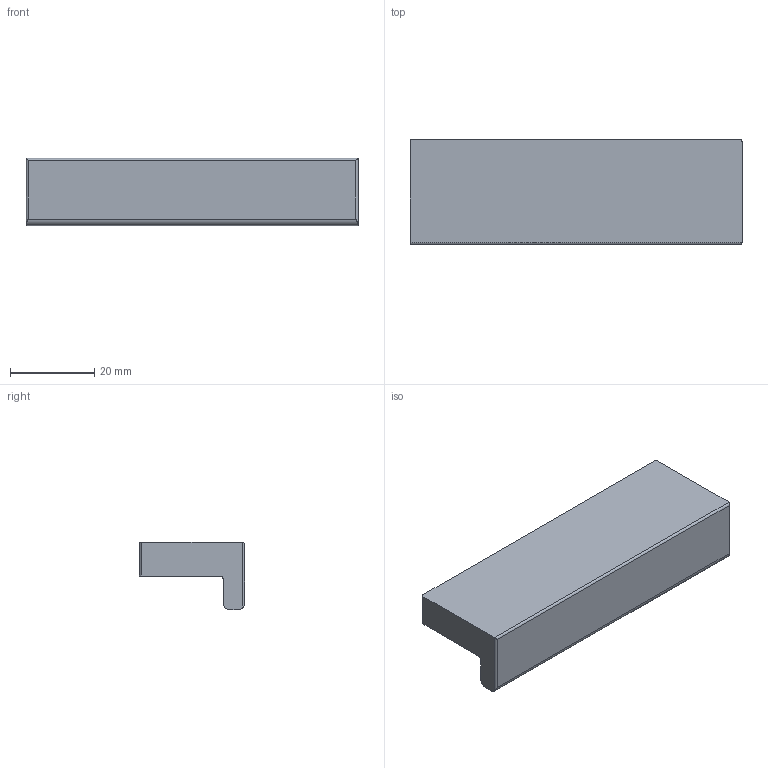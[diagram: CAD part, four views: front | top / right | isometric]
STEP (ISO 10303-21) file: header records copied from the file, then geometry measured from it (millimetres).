
FILE_DESCRIPTION( ( 'STEP AP214' ), '1' );
FILE_NAME( 'C:/Users/kulkarni/Desktop/Apurva/2015/Prodecor_2016/Cadfiles/same as files/rovigo/9204195.stp', ' ', ( ' ' ), ( ' ' ), 'PSStep 15.0.47', 'PARTsolutions', ' ' );
FILE_SCHEMA( ( 'AUTOMOTIVE_DESIGN { 1 0 10303 214 1 1 1 1 }' ) );
Length unit declared in the file: millimetre
Products named in the file (1): _9204195
Bounding box: 79 x 25 x 16 mm (x, y, z)
Volume: 18642.7 mm3; surface area: 7045 mm2
Topology: 1 solids, 1 shells, 20 faces, 46 edges, 30 vertices
Faces by surface type: plane 10, cylinder 10
Full cylindrical faces by diameter (mm): 4 x2
Entity records: 746 total; most frequent: CARTESIAN_POINT 109, DIRECTION 100, ORIENTED_EDGE 88, EDGE_CURVE 44, AXIS2_PLACEMENT_3D 37, VERTEX_POINT 30, LINE 26, VECTOR 26
